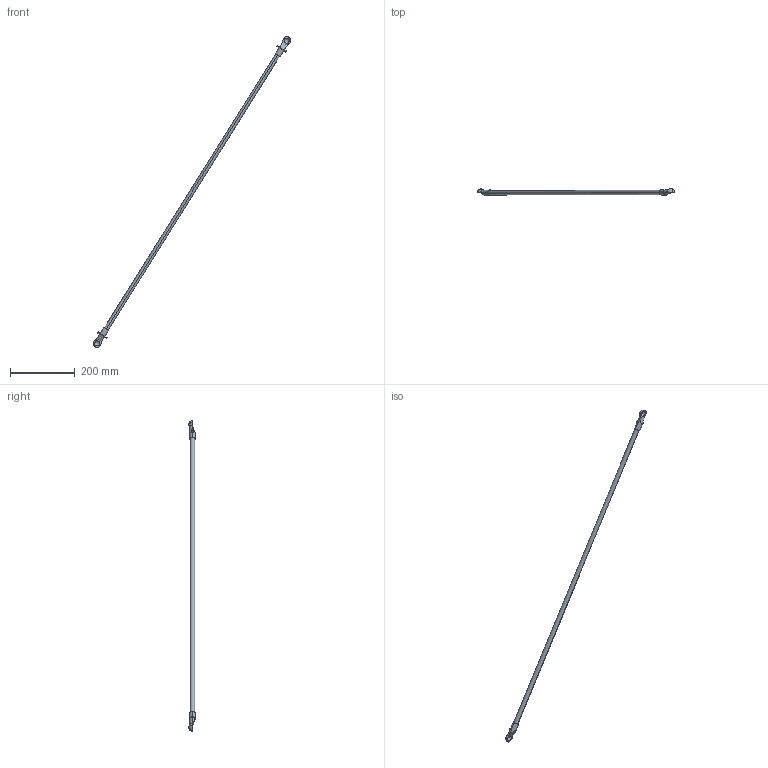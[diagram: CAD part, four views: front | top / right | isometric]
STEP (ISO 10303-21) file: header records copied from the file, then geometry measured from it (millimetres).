
FILE_DESCRIPTION (( 'STEP AP214' ), '1' );
FILE_NAME ('IRB360_X-1600-STD-4D_rev05_LA1_2_CAD.STEP', '2025-10-31T12:17:53', ( '' ), ( '' ), 'SwSTEP 2.0', 'SolidWorks 2024', '' );
FILE_SCHEMA (( 'AUTOMOTIVE_DESIGN' ));
Length unit declared in the file: millimetre
Products named in the file (1): IRB360_X-1600-STD-4D_rev05_LA1_2_CAD
Bounding box: 610.9 x 20.65 x 961.41 mm (x, y, z)
Volume: 183584.3 mm3; surface area: 54722.5 mm2
Topology: 5 solids, 5 shells, 42 faces, 90 edges, 54 vertices
Faces by surface type: cylinder 12, plane 12, sphere 10, cone 8
Entity records: 1211 total; most frequent: CARTESIAN_POINT 267, DIRECTION 208, ORIENTED_EDGE 160, AXIS2_PLACEMENT_3D 91, EDGE_CURVE 80, VERTEX_POINT 50, CIRCLE 48, EDGE_LOOP 44
